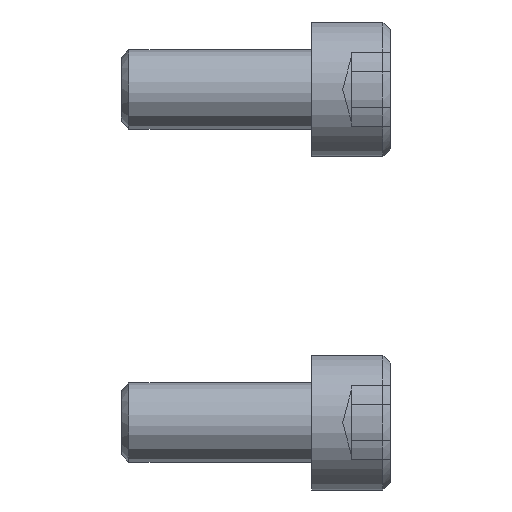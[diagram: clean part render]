
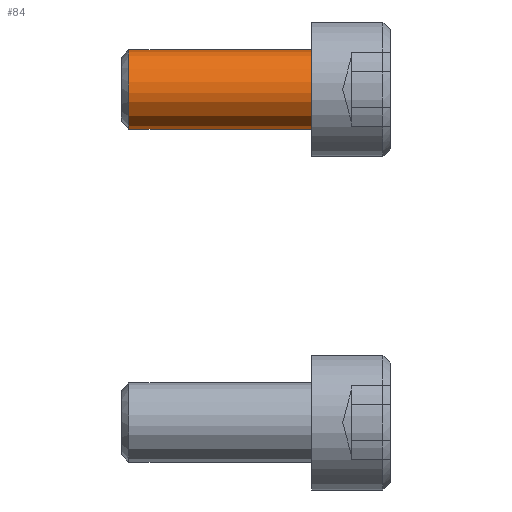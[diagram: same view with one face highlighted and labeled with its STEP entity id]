
A CAD part, left-side view. The second image highlights one B-rep face of the part: STEP entity #84.
In plain terms, the highlighted free-form (B-spline) face has degree [2, 1] with [9, 2] control points.
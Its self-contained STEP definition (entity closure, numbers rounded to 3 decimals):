
#84=ADVANCED_FACE('',(#159),#2228,.T.);
#159=FACE_OUTER_BOUND('',#234,.T.);
#234=EDGE_LOOP('',(#379,#380,#381,#382));
#379=ORIENTED_EDGE('',*,*,#1544,.F.);
#380=ORIENTED_EDGE('',*,*,#1587,.T.);
#381=ORIENTED_EDGE('',*,*,#1546,.F.);
#382=ORIENTED_EDGE('',*,*,#1586,.F.);
#644=(
BOUNDED_CURVE()
B_SPLINE_CURVE(2,(#2928,#2929,#2930,#2931,#2932),.UNSPECIFIED.,.F.,.F.)
B_SPLINE_CURVE_WITH_KNOTS((3,2,3),(-7.854,-3.927,0.),
 .UNSPECIFIED.)
CURVE()
GEOMETRIC_REPRESENTATION_ITEM()
RATIONAL_B_SPLINE_CURVE((1.,0.707,1.,0.707,1.))
REPRESENTATION_ITEM('')
);
#645=(
BOUNDED_CURVE()
B_SPLINE_CURVE(2,(#2941,#2942,#2943,#2944,#2945),.UNSPECIFIED.,.F.,.F.)
B_SPLINE_CURVE_WITH_KNOTS((3,2,3),(-7.854,-3.927,0.),
 .UNSPECIFIED.)
CURVE()
GEOMETRIC_REPRESENTATION_ITEM()
RATIONAL_B_SPLINE_CURVE((1.,0.707,1.,0.707,1.))
REPRESENTATION_ITEM('')
);
#649=(
BOUNDED_CURVE()
B_SPLINE_CURVE(2,(#2967,#2968,#2969,#2970,#2971),.UNSPECIFIED.,.F.,.F.)
B_SPLINE_CURVE_WITH_KNOTS((3,2,3),(-7.854,-3.927,0.),
 .UNSPECIFIED.)
CURVE()
GEOMETRIC_REPRESENTATION_ITEM()
RATIONAL_B_SPLINE_CURVE((1.,0.707,1.,0.707,1.))
REPRESENTATION_ITEM('')
);
#735=PCURVE('',#2223,#1059);
#737=PCURVE('',#2223,#1061);
#808=PCURVE('',#2227,#1132);
#811=PCURVE('',#2228,#1135);
#812=PCURVE('',#2228,#1136);
#813=PCURVE('',#2228,#1137);
#814=PCURVE('',#2228,#1138);
#817=PCURVE('',#2189,#1141);
#1059=DEFINITIONAL_REPRESENTATION('',(#1712),#4285);
#1061=DEFINITIONAL_REPRESENTATION('',(#1715),#4285);
#1132=DEFINITIONAL_REPRESENTATION('',(#1804),#4285);
#1135=DEFINITIONAL_REPRESENTATION('',(#1807),#4285);
#1136=DEFINITIONAL_REPRESENTATION('',(#1808),#4285);
#1137=DEFINITIONAL_REPRESENTATION('',(#1809),#4285);
#1138=DEFINITIONAL_REPRESENTATION('',(#1810),#4285);
#1141=DEFINITIONAL_REPRESENTATION('',(#649),#4285);
#1382=SURFACE_CURVE('',#1711,(#735,#811),.PCURVE_S1.);
#1384=SURFACE_CURVE('',#1714,(#737,#813),.PCURVE_S1.);
#1424=SURFACE_CURVE('',#644,(#808,#814),.PCURVE_S1.);
#1425=SURFACE_CURVE('',#645,(#812,#817),.PCURVE_S1.);
#1544=EDGE_CURVE('',#2083,#2084,#1382,.T.);
#1546=EDGE_CURVE('',#2085,#2086,#1384,.T.);
#1586=EDGE_CURVE('',#2084,#2085,#1424,.T.);
#1587=EDGE_CURVE('',#2083,#2086,#1425,.T.);
#1711=B_SPLINE_CURVE_WITH_KNOTS('',1,(#2664,#2665),.UNSPECIFIED.,.F.,.F.,
(2,2),(-11.51,0.),.UNSPECIFIED.);
#1712=B_SPLINE_CURVE_WITH_KNOTS('',1,(#2666,#2667),.UNSPECIFIED.,.F.,.F.,
(2,2),(-11.51,0.),.UNSPECIFIED.);
#1714=B_SPLINE_CURVE_WITH_KNOTS('',1,(#2675,#2676),.UNSPECIFIED.,.F.,.F.,
(2,2),(-11.51,0.),.UNSPECIFIED.);
#1715=B_SPLINE_CURVE_WITH_KNOTS('',1,(#2677,#2678),.UNSPECIFIED.,.F.,.F.,
(2,2),(-11.51,0.),.UNSPECIFIED.);
#1804=B_SPLINE_CURVE_WITH_KNOTS('',1,(#2933,#2934),.UNSPECIFIED.,.F.,.F.,
(2,2),(-7.854,0.),.UNSPECIFIED.);
#1807=B_SPLINE_CURVE_WITH_KNOTS('',1,(#2939,#2940),.UNSPECIFIED.,.F.,.F.,
(2,2),(-11.51,0.),.UNSPECIFIED.);
#1808=B_SPLINE_CURVE_WITH_KNOTS('',1,(#2946,#2947),.UNSPECIFIED.,.F.,.F.,
(2,2),(-7.854,0.),.UNSPECIFIED.);
#1809=B_SPLINE_CURVE_WITH_KNOTS('',1,(#2948,#2949),.UNSPECIFIED.,.F.,.F.,
(2,2),(-11.51,0.),.UNSPECIFIED.);
#1810=B_SPLINE_CURVE_WITH_KNOTS('',1,(#2950,#2951),.UNSPECIFIED.,.F.,.F.,
(2,2),(-7.854,0.),.UNSPECIFIED.);
#2083=VERTEX_POINT('',#2598);
#2084=VERTEX_POINT('',#2599);
#2085=VERTEX_POINT('',#2600);
#2086=VERTEX_POINT('',#2601);
#2189=PLANE('',#2305);
#2223=(
BOUNDED_SURFACE()
B_SPLINE_SURFACE(2,1,((#2433,#2434),(#2435,#2436),(#2437,#2438),(#2439,#2440),
(#2441,#2442),(#2443,#2444),(#2445,#2446),(#2447,#2448),(#2449,#2450)),
 .UNSPECIFIED.,.T.,.F.,.F.)
B_SPLINE_SURFACE_WITH_KNOTS((3,2,2,2,3),(2,2),(0.,1.571,3.142,
4.712,6.283),(0.,13.814),.UNSPECIFIED.)
GEOMETRIC_REPRESENTATION_ITEM()
RATIONAL_B_SPLINE_SURFACE(((1.,1.),(0.707,0.707),
(1.,1.),(0.707,0.707),(1.,1.),(0.707,
0.707),(1.,1.),(0.707,0.707),(1.,1.)))
REPRESENTATION_ITEM('')
SURFACE()
);
#2227=(
BOUNDED_SURFACE()
B_SPLINE_SURFACE(2,1,((#2518,#2519),(#2520,#2521),(#2522,#2523),(#2524,#2525),
(#2526,#2527),(#2528,#2529),(#2530,#2531),(#2532,#2533),(#2534,#2535)),
 .UNSPECIFIED.,.T.,.F.,.F.)
B_SPLINE_SURFACE_WITH_KNOTS((3,2,2,2,3),(2,2),(0.,1.571,3.142,
4.712,6.283),(0.,3.891),.UNSPECIFIED.)
GEOMETRIC_REPRESENTATION_ITEM()
RATIONAL_B_SPLINE_SURFACE(((1.,1.),(0.707,0.707),
(1.,1.),(0.707,0.707),(1.,1.),(0.707,
0.707),(1.,1.),(0.707,0.707),(1.,1.)))
REPRESENTATION_ITEM('')
SURFACE()
);
#2228=(
BOUNDED_SURFACE()
B_SPLINE_SURFACE(2,1,((#2536,#2537),(#2538,#2539),(#2540,#2541),(#2542,#2543),
(#2544,#2545),(#2546,#2547),(#2548,#2549),(#2550,#2551),(#2552,#2553)),
 .UNSPECIFIED.,.T.,.F.,.F.)
B_SPLINE_SURFACE_WITH_KNOTS((3,2,2,2,3),(2,2),(0.,1.571,3.142,
4.712,6.283),(0.,13.814),.UNSPECIFIED.)
GEOMETRIC_REPRESENTATION_ITEM()
RATIONAL_B_SPLINE_SURFACE(((1.,1.),(0.707,0.707),
(1.,1.),(0.707,0.707),(1.,1.),(0.707,
0.707),(1.,1.),(0.707,0.707),(1.,1.)))
REPRESENTATION_ITEM('')
SURFACE()
);
#2305=AXIS2_PLACEMENT_3D('',#2554,#2356,$);
#2356=DIRECTION('',(0.,-1.,0.));
#2433=CARTESIAN_POINT('',(-722.5,26.848,15.));
#2434=CARTESIAN_POINT('',(-722.5,40.662,15.));
#2435=CARTESIAN_POINT('',(-722.5,26.848,12.5));
#2436=CARTESIAN_POINT('',(-722.5,40.662,12.5));
#2437=CARTESIAN_POINT('',(-720.,26.848,12.5));
#2438=CARTESIAN_POINT('',(-720.,40.662,12.5));
#2439=CARTESIAN_POINT('',(-717.5,26.848,12.5));
#2440=CARTESIAN_POINT('',(-717.5,40.662,12.5));
#2441=CARTESIAN_POINT('',(-717.5,26.848,15.));
#2442=CARTESIAN_POINT('',(-717.5,40.662,15.));
#2443=CARTESIAN_POINT('',(-717.5,26.848,17.5));
#2444=CARTESIAN_POINT('',(-717.5,40.662,17.5));
#2445=CARTESIAN_POINT('',(-720.,26.848,17.5));
#2446=CARTESIAN_POINT('',(-720.,40.662,17.5));
#2447=CARTESIAN_POINT('',(-722.5,26.848,17.5));
#2448=CARTESIAN_POINT('',(-722.5,40.662,17.5));
#2449=CARTESIAN_POINT('',(-722.5,26.848,15.));
#2450=CARTESIAN_POINT('',(-722.5,40.662,15.));
#2518=CARTESIAN_POINT('',(-720.,42.01,15.));
#2519=CARTESIAN_POINT('',(-717.249,39.258,15.));
#2520=CARTESIAN_POINT('',(-720.,42.01,15.));
#2521=CARTESIAN_POINT('',(-717.249,39.258,12.249));
#2522=CARTESIAN_POINT('',(-720.,42.01,15.));
#2523=CARTESIAN_POINT('',(-720.,39.258,12.249));
#2524=CARTESIAN_POINT('',(-720.,42.01,15.));
#2525=CARTESIAN_POINT('',(-722.751,39.258,12.249));
#2526=CARTESIAN_POINT('',(-720.,42.01,15.));
#2527=CARTESIAN_POINT('',(-722.751,39.258,15.));
#2528=CARTESIAN_POINT('',(-720.,42.01,15.));
#2529=CARTESIAN_POINT('',(-722.751,39.258,17.751));
#2530=CARTESIAN_POINT('',(-720.,42.01,15.));
#2531=CARTESIAN_POINT('',(-720.,39.258,17.751));
#2532=CARTESIAN_POINT('',(-720.,42.01,15.));
#2533=CARTESIAN_POINT('',(-717.249,39.258,17.751));
#2534=CARTESIAN_POINT('',(-720.,42.01,15.));
#2535=CARTESIAN_POINT('',(-717.249,39.258,15.));
#2536=CARTESIAN_POINT('',(-717.5,26.848,15.));
#2537=CARTESIAN_POINT('',(-717.5,40.662,15.));
#2538=CARTESIAN_POINT('',(-717.5,26.848,17.5));
#2539=CARTESIAN_POINT('',(-717.5,40.662,17.5));
#2540=CARTESIAN_POINT('',(-720.,26.848,17.5));
#2541=CARTESIAN_POINT('',(-720.,40.662,17.5));
#2542=CARTESIAN_POINT('',(-722.5,26.848,17.5));
#2543=CARTESIAN_POINT('',(-722.5,40.662,17.5));
#2544=CARTESIAN_POINT('',(-722.5,26.848,15.));
#2545=CARTESIAN_POINT('',(-722.5,40.662,15.));
#2546=CARTESIAN_POINT('',(-722.5,26.848,12.5));
#2547=CARTESIAN_POINT('',(-722.5,40.662,12.5));
#2548=CARTESIAN_POINT('',(-720.,26.848,12.5));
#2549=CARTESIAN_POINT('',(-720.,40.662,12.5));
#2550=CARTESIAN_POINT('',(-717.5,26.848,12.5));
#2551=CARTESIAN_POINT('',(-717.5,40.662,12.5));
#2552=CARTESIAN_POINT('',(-717.5,26.848,15.));
#2553=CARTESIAN_POINT('',(-717.5,40.662,15.));
#2554=CARTESIAN_POINT('',(-725.101,28.,20.101));
#2598=CARTESIAN_POINT('',(-720.,28.,17.5));
#2599=CARTESIAN_POINT('',(-720.,39.51,17.5));
#2600=CARTESIAN_POINT('',(-720.,39.51,12.5));
#2601=CARTESIAN_POINT('',(-720.,28.,12.5));
#2664=CARTESIAN_POINT('',(-720.,28.,17.5));
#2665=CARTESIAN_POINT('',(-720.,39.51,17.5));
#2666=CARTESIAN_POINT('',(4.712,1.152));
#2667=CARTESIAN_POINT('',(4.712,12.662));
#2675=CARTESIAN_POINT('',(-720.,39.51,12.5));
#2676=CARTESIAN_POINT('',(-720.,28.,12.5));
#2677=CARTESIAN_POINT('',(1.571,12.662));
#2678=CARTESIAN_POINT('',(1.571,1.152));
#2928=CARTESIAN_POINT('',(-720.,39.51,17.5));
#2929=CARTESIAN_POINT('',(-722.5,39.51,17.5));
#2930=CARTESIAN_POINT('',(-722.5,39.51,15.));
#2931=CARTESIAN_POINT('',(-722.5,39.51,12.5));
#2932=CARTESIAN_POINT('',(-720.,39.51,12.5));
#2933=CARTESIAN_POINT('',(4.712,3.536));
#2934=CARTESIAN_POINT('',(1.571,3.536));
#2939=CARTESIAN_POINT('',(1.571,1.152));
#2940=CARTESIAN_POINT('',(1.571,12.662));
#2941=CARTESIAN_POINT('',(-720.,28.,17.5));
#2942=CARTESIAN_POINT('',(-722.5,28.,17.5));
#2943=CARTESIAN_POINT('',(-722.5,28.,15.));
#2944=CARTESIAN_POINT('',(-722.5,28.,12.5));
#2945=CARTESIAN_POINT('',(-720.,28.,12.5));
#2946=CARTESIAN_POINT('',(1.571,1.152));
#2947=CARTESIAN_POINT('',(4.712,1.152));
#2948=CARTESIAN_POINT('',(4.712,12.662));
#2949=CARTESIAN_POINT('',(4.712,1.152));
#2950=CARTESIAN_POINT('',(1.571,12.662));
#2951=CARTESIAN_POINT('',(4.712,12.662));
#2967=CARTESIAN_POINT('',(0.875,0.));
#2968=CARTESIAN_POINT('',(0.875,-2.5));
#2969=CARTESIAN_POINT('',(3.375,-2.5));
#2970=CARTESIAN_POINT('',(5.875,-2.5));
#2971=CARTESIAN_POINT('',(5.875,0.));
#4285=(
GEOMETRIC_REPRESENTATION_CONTEXT(2)
PARAMETRIC_REPRESENTATION_CONTEXT()
REPRESENTATION_CONTEXT('pspace','')
);
